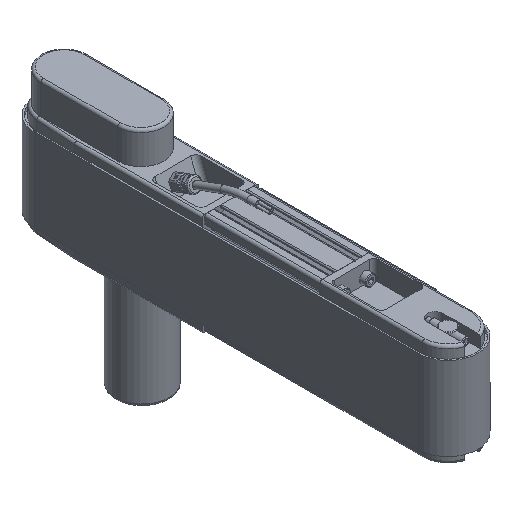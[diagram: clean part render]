
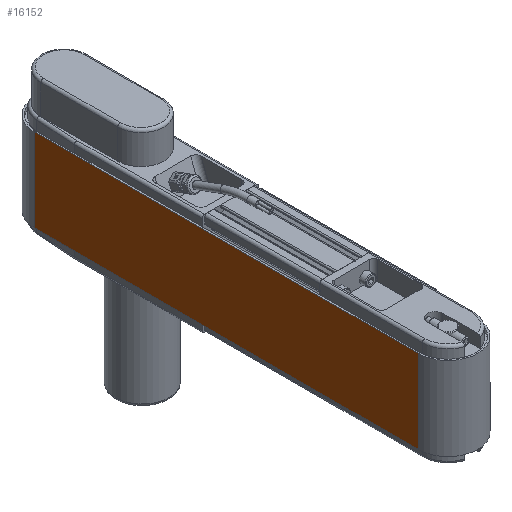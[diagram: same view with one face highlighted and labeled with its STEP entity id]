
A CAD part, isometric view. The second image highlights one B-rep face of the part: STEP entity #16152.
In plain terms, the highlighted planar face has unit normal (-1, 0, 0).
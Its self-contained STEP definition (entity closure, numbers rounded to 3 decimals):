
#507=PLANE('',#17216);
#1168=FACE_OUTER_BOUND('',#2059,.T.);
#2059=EDGE_LOOP('',(#10920,#10921,#10922,#10923));
#3057=LINE('',#24013,#4316);
#3060=LINE('',#24022,#4319);
#3063=LINE('',#24030,#4322);
#3064=LINE('',#24032,#4323);
#4316=VECTOR('',#19327,10.);
#4319=VECTOR('',#19336,10.);
#4322=VECTOR('',#19345,10.);
#4323=VECTOR('',#19348,10.);
#6469=VERTEX_POINT('',#24009);
#6471=VERTEX_POINT('',#24012);
#6473=VERTEX_POINT('',#24018);
#6476=VERTEX_POINT('',#24028);
#8189=EDGE_CURVE('',#6471,#6469,#3057,.T.);
#8194=EDGE_CURVE('',#6473,#6471,#3060,.T.);
#8198=EDGE_CURVE('',#6469,#6476,#3063,.T.);
#8199=EDGE_CURVE('',#6476,#6473,#3064,.T.);
#10920=ORIENTED_EDGE('',*,*,#8199,.T.);
#10921=ORIENTED_EDGE('',*,*,#8194,.T.);
#10922=ORIENTED_EDGE('',*,*,#8189,.T.);
#10923=ORIENTED_EDGE('',*,*,#8198,.T.);
#16152=ADVANCED_FACE('',(#1168),#507,.T.);
#17216=AXIS2_PLACEMENT_3D('',#24031,#19346,#19347);
#19327=DIRECTION('',(0.,-1.,0.));
#19336=DIRECTION('',(0.,0.,-1.));
#19345=DIRECTION('',(0.,0.,1.));
#19346=DIRECTION('center_axis',(-1.,0.,0.));
#19347=DIRECTION('ref_axis',(0.,0.,
1.));
#19348=DIRECTION('',(0.,1.,0.));
#24009=CARTESIAN_POINT('',(-23.3,-170.,-32.5));
#24012=CARTESIAN_POINT('',(-23.3,130.,-32.5));
#24013=CARTESIAN_POINT('',(-23.3,-170.,-32.5));
#24018=CARTESIAN_POINT('',(-23.3,130.,32.5));
#24022=CARTESIAN_POINT('',(-23.3,130.,0.));
#24028=CARTESIAN_POINT('',(-23.3,-170.,32.5));
#24030=CARTESIAN_POINT('',(-23.3,-170.,0.));
#24031=CARTESIAN_POINT('Origin',(-23.3,-170.,0.));
#24032=CARTESIAN_POINT('',(-23.3,-170.,32.5));
